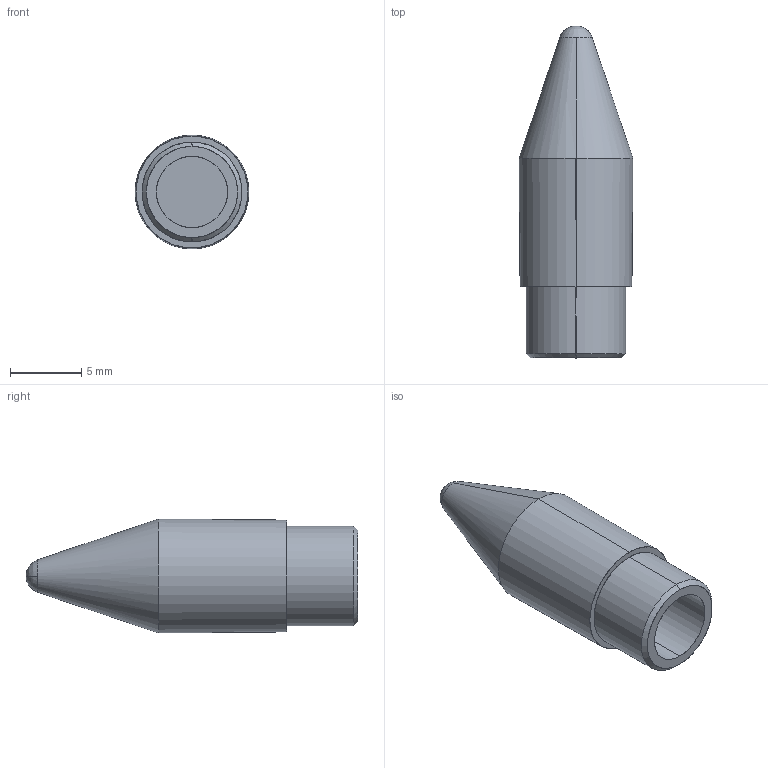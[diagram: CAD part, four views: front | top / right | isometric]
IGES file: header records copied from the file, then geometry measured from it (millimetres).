
Start section: SolidWorks IGES file using analytic representation for surfaces
Global section: file name: G:\Silvent\Ritningar\Övrigt\IGES\Silvent 5003.IGS; native system: SolidWorks 2006 by SolidWorks Corporation; preprocessor: SolidWorks 2006 by SolidWorks Corporation; author: silvpesv; date: 080225.120057; units: millimetre
Bounding box: 8 x 23.3 x 8 mm (x, y, z)
Surface area: 811.9 mm2 (no closed solid volume)
Topology: 0 solids, 0 shells, 18 faces, 284 edges, 282 vertices
Faces by surface type: revolution 14, bspline 4
